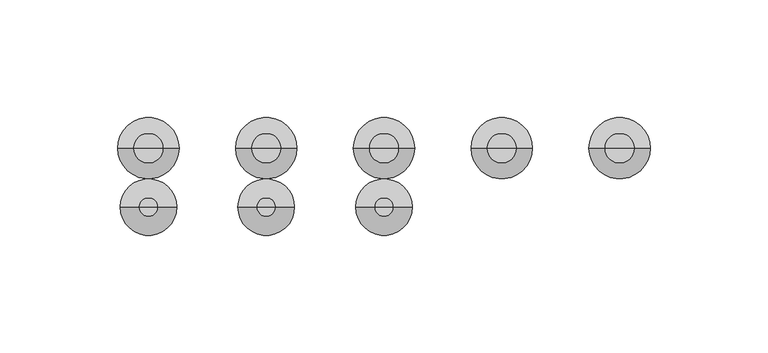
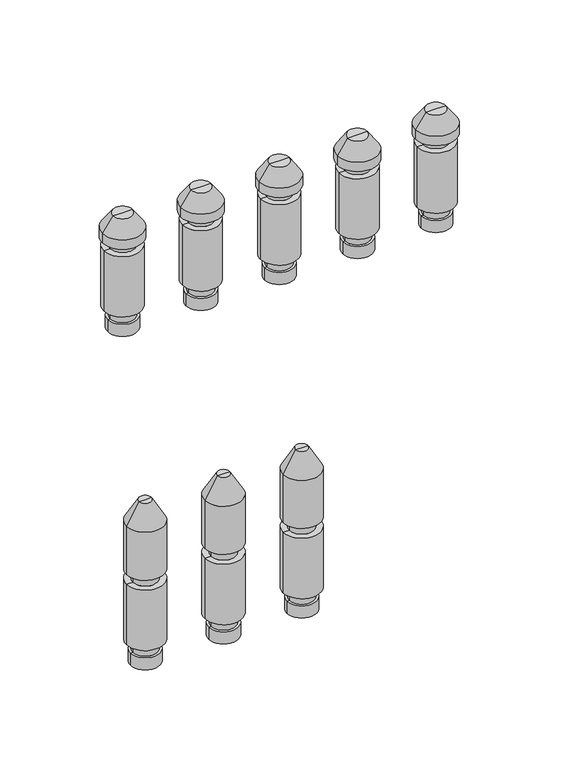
"""IFC4 building model written with IfcOpenShell, lengths in millimetres: valve geometry, PL CZ_Manifold_FT-VA : 15 circuits."""

from ifc_helpers import new_model, si_unit, frame, origin, place, context, project, spatial, polyline, circle_curve, source, transform, mapped, element, save
from ifc_brep_helpers import plane_surface, cylinder_surface, revolved_surface, advanced_brep


def valve_7d993025(model_context):
    return source(origin(), model_context, "Body", "AdvancedBrep", [
        advanced_brep(
        [(528.5, 25.0, 174.88733), (547.5, 25.0, 174.88733), (538.0, 25.0, 174.88733), (528.5, 25.0, 182.9630354), (547.5, 25.0, 182.9630354), (530.0, 25.0, 182.9630354), (546.0, 25.0, 182.9630354), (530.0, 25.0, 189.669747), (546.0, 25.0, 189.669747), (526.0, 25.0, 189.669747), (550.0, 25.0, 189.669747), (526.0, 25.0, 230.330253), (550.0, 25.0, 230.330253), (530.0, 25.0, 230.330253), (546.0, 25.0, 230.330253), (530.0, 25.0, 236.0474786), (546.0, 25.0, 236.0474786), (525.0, 25.0, 236.0474786), (551.0, 25.0, 236.0474786), (525.0, 25.0, 242.337955), (551.0, 25.0, 242.337955), (531.6551779, 25.0, 251.842534), (544.3448221, 25.0, 251.842534), (538.0, 25.0, 251.842534)],
        [
            (0, 1, circle_curve(frame((538.0, 25.0, 174.88733), z_axis=(0.0, 0.0, -1.0), x_axis=(1.0, 0.0, 0.0)), 9.5)),
            (1, 2),
            (2, 0),
            (1, 0, circle_curve(frame((538.0, 25.0, 174.88733), z_axis=(0.0, 0.0, -1.0), x_axis=(1.0, 0.0, 0.0)), 9.5)),
            (3, 4, circle_curve(frame((538.0, 25.0, 182.9630354), z_axis=(0.0, 0.0, -1.0), x_axis=(1.0, 0.0, 0.0)), 9.5)),
            (4, 1),
            (0, 3),
            (4, 3, circle_curve(frame((538.0, 25.0, 182.9630354), z_axis=(0.0, 0.0, -1.0), x_axis=(1.0, 0.0, 0.0)), 9.5)),
            (5, 6, circle_curve(frame((538.0, 25.0, 182.9630354), z_axis=(0.0, 0.0, -1.0), x_axis=(1.0, 0.0, 0.0)), 8.0)),
            (6, 4),
            (3, 5),
            (6, 5, circle_curve(frame((538.0, 25.0, 182.9630354), z_axis=(0.0, 0.0, -1.0), x_axis=(1.0, 0.0, 0.0)), 8.0)),
            (7, 8, circle_curve(frame((538.0, 25.0, 189.669747), z_axis=(0.0, 0.0, -1.0), x_axis=(1.0, 0.0, 0.0)), 8.0)),
            (8, 6),
            (5, 7),
            (8, 7, circle_curve(frame((538.0, 25.0, 189.669747), z_axis=(0.0, 0.0, -1.0), x_axis=(1.0, 0.0, 0.0)), 8.0)),
            (9, 10, circle_curve(frame((538.0, 25.0, 189.669747), z_axis=(0.0, 0.0, -1.0), x_axis=(1.0, 0.0, 0.0)), 12.0)),
            (10, 8),
            (7, 9),
            (10, 9, circle_curve(frame((538.0, 25.0, 189.669747), z_axis=(0.0, 0.0, -1.0), x_axis=(1.0, 0.0, 0.0)), 12.0)),
            (11, 12, circle_curve(frame((538.0, 25.0, 230.330253), z_axis=(0.0, 0.0, -1.0), x_axis=(1.0, 0.0, 0.0)), 12.0)),
            (12, 10),
            (9, 11),
            (12, 11, circle_curve(frame((538.0, 25.0, 230.330253), z_axis=(0.0, 0.0, -1.0), x_axis=(1.0, 0.0, 0.0)), 12.0)),
            (13, 14, circle_curve(frame((538.0, 25.0, 230.330253), z_axis=(0.0, 0.0, -1.0), x_axis=(1.0, 0.0, 0.0)), 8.0)),
            (14, 12),
            (11, 13),
            (14, 13, circle_curve(frame((538.0, 25.0, 230.330253), z_axis=(0.0, 0.0, -1.0), x_axis=(1.0, 0.0, 0.0)), 8.0)),
            (15, 16, circle_curve(frame((538.0, 25.0, 236.0474786), z_axis=(0.0, 0.0, -1.0), x_axis=(1.0, 0.0, 0.0)), 8.0)),
            (16, 14),
            (13, 15),
            (16, 15, circle_curve(frame((538.0, 25.0, 236.0474786), z_axis=(0.0, 0.0, -1.0), x_axis=(1.0, 0.0, 0.0)), 8.0)),
            (17, 18, circle_curve(frame((538.0, 25.0, 236.0474786), z_axis=(0.0, 0.0, -1.0), x_axis=(1.0, 0.0, 0.0)), 13.0)),
            (18, 16),
            (15, 17),
            (18, 17, circle_curve(frame((538.0, 25.0, 236.0474786), z_axis=(0.0, 0.0, -1.0), x_axis=(1.0, 0.0, 0.0)), 13.0)),
            (19, 20, circle_curve(frame((538.0, 25.0, 242.337955), z_axis=(0.0, 0.0, -1.0), x_axis=(1.0, 0.0, 0.0)), 13.0)),
            (20, 18),
            (17, 19),
            (20, 19, circle_curve(frame((538.0, 25.0, 242.337955), z_axis=(0.0, 0.0, -1.0), x_axis=(1.0, 0.0, 0.0)), 13.0)),
            (21, 22, circle_curve(frame((538.0, 25.0, 251.842534), z_axis=(0.0, 0.0, -1.0), x_axis=(1.0, 0.0, 0.0)), 6.3448221)),
            (22, 20),
            (19, 21),
            (22, 21, circle_curve(frame((538.0, 25.0, 251.842534), z_axis=(0.0, 0.0, -1.0), x_axis=(1.0, 0.0, 0.0)), 6.3448221)),
            (23, 22),
            (21, 23),
        ],
        [
            plane_surface(frame((538.0, 25.0, 174.88733), z_axis=(0.0, 0.0, -1.0), x_axis=(1.0, 0.0, 0.0))),
            cylinder_surface(frame((538.0, 25.0, 247.7026565), z_axis=(0.0, 0.0, 1.0), x_axis=(1.0, 0.0, 0.0)), 9.5),
            plane_surface(frame((538.0, 25.0, 182.9630354), z_axis=(0.0, 0.0, 1.0), x_axis=(1.0, 0.0, 0.0))),
            cylinder_surface(frame((538.0, 25.0, 247.7026565), z_axis=(0.0, 0.0, 1.0), x_axis=(1.0, 0.0, 0.0)), 8.0),
            plane_surface(frame((538.0, 25.0, 189.669747), z_axis=(0.0, 0.0, -1.0), x_axis=(1.0, 0.0, 0.0))),
            cylinder_surface(frame((538.0, 25.0, 247.7026565), z_axis=(0.0, 0.0, 1.0), x_axis=(1.0, 0.0, 0.0)), 12.0),
            plane_surface(frame((538.0, 25.0, 230.330253), z_axis=(0.0, 0.0, 1.0), x_axis=(1.0, 0.0, 0.0))),
            plane_surface(frame((538.0, 25.0, 236.0474786), z_axis=(0.0, 0.0, -1.0), x_axis=(1.0, 0.0, 0.0))),
            cylinder_surface(frame((538.0, 25.0, 247.7026565), z_axis=(0.0, 0.0, 1.0), x_axis=(1.0, 0.0, 0.0)), 13.0),
            revolved_surface(polyline([(551.0, 25.0, 242.337955), (544.3448221, 25.0, 251.842534)]), (538.0, 25.0, 247.7026565), (0.0, 0.0, 1.0)),
            plane_surface(frame((538.0, 25.0, 251.842534), z_axis=(0.0, 0.0, 1.0), x_axis=(1.0, 0.0, 0.0))),
        ],
        [
            (0, [[1, 2, 3]]),
            (0, [[4, -3, -2]]),
            (1, [[5, 6, -1, 7]]),
            (1, [[8, -7, -4, -6]]),
            (2, [[9, 10, -5, 11]]),
            (2, [[12, -11, -8, -10]]),
            (3, [[13, 14, -9, 15]]),
            (3, [[16, -15, -12, -14]]),
            (4, [[17, 18, -13, 19]]),
            (4, [[20, -19, -16, -18]]),
            (5, [[21, 22, -17, 23]]),
            (5, [[24, -23, -20, -22]]),
            (6, [[25, 26, -21, 27]]),
            (6, [[28, -27, -24, -26]]),
            (3, [[29, 30, -25, 31]]),
            (3, [[32, -31, -28, -30]]),
            (7, [[33, 34, -29, 35]]),
            (7, [[36, -35, -32, -34]]),
            (8, [[37, 38, -33, 39]]),
            (8, [[40, -39, -36, -38]]),
            (9, [[41, 42, -37, 43]]),
            (9, [[44, -43, -40, -42]]),
            (10, [[45, -41, 46]]),
            (10, [[-46, -44, -45]]),
        ],
    ),
        advanced_brep(
        [(478.5, 25.0, 174.88733), (497.5, 25.0, 174.88733), (488.0, 25.0, 174.88733), (478.5, 25.0, 182.9630354), (497.5, 25.0, 182.9630354), (480.0, 25.0, 182.9630354), (496.0, 25.0, 182.9630354), (480.0, 25.0, 189.669747), (496.0, 25.0, 189.669747), (476.0, 25.0, 189.669747), (500.0, 25.0, 189.669747), (476.0, 25.0, 230.330253), (500.0, 25.0, 230.330253), (480.0, 25.0, 230.330253), (496.0, 25.0, 230.330253), (480.0, 25.0, 236.0474786), (496.0, 25.0, 236.0474786), (475.0, 25.0, 236.0474786), (501.0, 25.0, 236.0474786), (475.0, 25.0, 242.337955), (501.0, 25.0, 242.337955), (481.6551779, 25.0, 251.842534), (494.3448221, 25.0, 251.842534), (488.0, 25.0, 251.842534)],
        [
            (0, 1, circle_curve(frame((488.0, 25.0, 174.88733), z_axis=(0.0, 0.0, -1.0), x_axis=(1.0, 0.0, 0.0)), 9.5)),
            (1, 2),
            (2, 0),
            (1, 0, circle_curve(frame((488.0, 25.0, 174.88733), z_axis=(0.0, 0.0, -1.0), x_axis=(1.0, 0.0, 0.0)), 9.5)),
            (3, 4, circle_curve(frame((488.0, 25.0, 182.9630354), z_axis=(0.0, 0.0, -1.0), x_axis=(1.0, 0.0, 0.0)), 9.5)),
            (4, 1),
            (0, 3),
            (4, 3, circle_curve(frame((488.0, 25.0, 182.9630354), z_axis=(0.0, 0.0, -1.0), x_axis=(1.0, 0.0, 0.0)), 9.5)),
            (5, 6, circle_curve(frame((488.0, 25.0, 182.9630354), z_axis=(0.0, 0.0, -1.0), x_axis=(1.0, 0.0, 0.0)), 8.0)),
            (6, 4),
            (3, 5),
            (6, 5, circle_curve(frame((488.0, 25.0, 182.9630354), z_axis=(0.0, 0.0, -1.0), x_axis=(1.0, 0.0, 0.0)), 8.0)),
            (7, 8, circle_curve(frame((488.0, 25.0, 189.669747), z_axis=(0.0, 0.0, -1.0), x_axis=(1.0, 0.0, 0.0)), 8.0)),
            (8, 6),
            (5, 7),
            (8, 7, circle_curve(frame((488.0, 25.0, 189.669747), z_axis=(0.0, 0.0, -1.0), x_axis=(1.0, 0.0, 0.0)), 8.0)),
            (9, 10, circle_curve(frame((488.0, 25.0, 189.669747), z_axis=(0.0, 0.0, -1.0), x_axis=(1.0, 0.0, 0.0)), 12.0)),
            (10, 8),
            (7, 9),
            (10, 9, circle_curve(frame((488.0, 25.0, 189.669747), z_axis=(0.0, 0.0, -1.0), x_axis=(1.0, 0.0, 0.0)), 12.0)),
            (11, 12, circle_curve(frame((488.0, 25.0, 230.330253), z_axis=(0.0, 0.0, -1.0), x_axis=(1.0, 0.0, 0.0)), 12.0)),
            (12, 10),
            (9, 11),
            (12, 11, circle_curve(frame((488.0, 25.0, 230.330253), z_axis=(0.0, 0.0, -1.0), x_axis=(1.0, 0.0, 0.0)), 12.0)),
            (13, 14, circle_curve(frame((488.0, 25.0, 230.330253), z_axis=(0.0, 0.0, -1.0), x_axis=(1.0, 0.0, 0.0)), 8.0)),
            (14, 12),
            (11, 13),
            (14, 13, circle_curve(frame((488.0, 25.0, 230.330253), z_axis=(0.0, 0.0, -1.0), x_axis=(1.0, 0.0, 0.0)), 8.0)),
            (15, 16, circle_curve(frame((488.0, 25.0, 236.0474786), z_axis=(0.0, 0.0, -1.0), x_axis=(1.0, 0.0, 0.0)), 8.0)),
            (16, 14),
            (13, 15),
            (16, 15, circle_curve(frame((488.0, 25.0, 236.0474786), z_axis=(0.0, 0.0, -1.0), x_axis=(1.0, 0.0, 0.0)), 8.0)),
            (17, 18, circle_curve(frame((488.0, 25.0, 236.0474786), z_axis=(0.0, 0.0, -1.0), x_axis=(1.0, 0.0, 0.0)), 13.0)),
            (18, 16),
            (15, 17),
            (18, 17, circle_curve(frame((488.0, 25.0, 236.0474786), z_axis=(0.0, 0.0, -1.0), x_axis=(1.0, 0.0, 0.0)), 13.0)),
            (19, 20, circle_curve(frame((488.0, 25.0, 242.337955), z_axis=(0.0, 0.0, -1.0), x_axis=(1.0, 0.0, 0.0)), 13.0)),
            (20, 18),
            (17, 19),
            (20, 19, circle_curve(frame((488.0, 25.0, 242.337955), z_axis=(0.0, 0.0, -1.0), x_axis=(1.0, 0.0, 0.0)), 13.0)),
            (21, 22, circle_curve(frame((488.0, 25.0, 251.842534), z_axis=(0.0, 0.0, -1.0), x_axis=(1.0, 0.0, 0.0)), 6.3448221)),
            (22, 20),
            (19, 21),
            (22, 21, circle_curve(frame((488.0, 25.0, 251.842534), z_axis=(0.0, 0.0, -1.0), x_axis=(1.0, 0.0, 0.0)), 6.3448221)),
            (23, 22),
            (21, 23),
        ],
        [
            plane_surface(frame((488.0, 25.0, 174.88733), z_axis=(0.0, 0.0, -1.0), x_axis=(1.0, 0.0, 0.0))),
            cylinder_surface(frame((488.0, 25.0, 247.7026565), z_axis=(0.0, 0.0, 1.0), x_axis=(1.0, 0.0, 0.0)), 9.5),
            plane_surface(frame((488.0, 25.0, 182.9630354), z_axis=(0.0, 0.0, 1.0), x_axis=(1.0, 0.0, 0.0))),
            cylinder_surface(frame((488.0, 25.0, 247.7026565), z_axis=(0.0, 0.0, 1.0), x_axis=(1.0, 0.0, 0.0)), 8.0),
            plane_surface(frame((488.0, 25.0, 189.669747), z_axis=(0.0, 0.0, -1.0), x_axis=(1.0, 0.0, 0.0))),
            cylinder_surface(frame((488.0, 25.0, 247.7026565), z_axis=(0.0, 0.0, 1.0), x_axis=(1.0, 0.0, 0.0)), 12.0),
            plane_surface(frame((488.0, 25.0, 230.330253), z_axis=(0.0, 0.0, 1.0), x_axis=(1.0, 0.0, 0.0))),
            plane_surface(frame((488.0, 25.0, 236.0474786), z_axis=(0.0, 0.0, -1.0), x_axis=(1.0, 0.0, 0.0))),
            cylinder_surface(frame((488.0, 25.0, 247.7026565), z_axis=(0.0, 0.0, 1.0), x_axis=(1.0, 0.0, 0.0)), 13.0),
            revolved_surface(polyline([(501.0, 25.0, 242.337955), (494.3448221, 25.0, 251.842534)]), (488.0, 25.0, 247.7026565), (0.0, 0.0, 1.0)),
            plane_surface(frame((488.0, 25.0, 251.842534), z_axis=(0.0, 0.0, 1.0), x_axis=(1.0, 0.0, 0.0))),
        ],
        [
            (0, [[1, 2, 3]]),
            (0, [[4, -3, -2]]),
            (1, [[5, 6, -1, 7]]),
            (1, [[8, -7, -4, -6]]),
            (2, [[9, 10, -5, 11]]),
            (2, [[12, -11, -8, -10]]),
            (3, [[13, 14, -9, 15]]),
            (3, [[16, -15, -12, -14]]),
            (4, [[17, 18, -13, 19]]),
            (4, [[20, -19, -16, -18]]),
            (5, [[21, 22, -17, 23]]),
            (5, [[24, -23, -20, -22]]),
            (6, [[25, 26, -21, 27]]),
            (6, [[28, -27, -24, -26]]),
            (3, [[29, 30, -25, 31]]),
            (3, [[32, -31, -28, -30]]),
            (7, [[33, 34, -29, 35]]),
            (7, [[36, -35, -32, -34]]),
            (8, [[37, 38, -33, 39]]),
            (8, [[40, -39, -36, -38]]),
            (9, [[41, 42, -37, 43]]),
            (9, [[44, -43, -40, -42]]),
            (10, [[45, -41, 46]]),
            (10, [[-46, -44, -45]]),
        ],
    ),
        advanced_brep(
        [(428.5, 0.0, -35.11267), (447.5, 0.0, -35.11267), (438.0, 0.0, -35.11267), (428.5, 0.0, -27.0369646), (447.5, 0.0, -27.0369646), (430.0, 0.0, -27.0369646), (446.0, 0.0, -27.0369646), (430.0, 0.0, -20.330253), (446.0, 0.0, -20.330253), (426.0, 0.0, -20.330253), (450.0, 0.0, -20.330253), (426.0, 0.0, 20.330253), (450.0, 0.0, 20.330253), (430.0, 0.0, 20.330253), (446.0, 0.0, 20.330253), (430.0, 0.0, 27.0474786), (446.0, 0.0, 27.0474786), (426.0, 0.0, 27.0474786), (450.0, 0.0, 27.0474786), (426.0, 0.0, 59.4084325), (450.0, 0.0, 59.4084325), (434.0, 0.0, 73.264839), (442.0, 0.0, 73.264839), (438.0, 0.0, 73.264839)],
        [
            (0, 1, circle_curve(frame((438.0, 0.0, -35.11267), z_axis=(0.0, 0.0, -1.0), x_axis=(1.0, 0.0, 0.0)), 9.5)),
            (1, 2),
            (2, 0),
            (1, 0, circle_curve(frame((438.0, 0.0, -35.11267), z_axis=(0.0, 0.0, -1.0), x_axis=(1.0, 0.0, 0.0)), 9.5)),
            (3, 4, circle_curve(frame((438.0, 0.0, -27.0369646), z_axis=(0.0, 0.0, -1.0), x_axis=(1.0, 0.0, 0.0)), 9.5)),
            (4, 1),
            (0, 3),
            (4, 3, circle_curve(frame((438.0, 0.0, -27.0369646), z_axis=(0.0, 0.0, -1.0), x_axis=(1.0, 0.0, 0.0)), 9.5)),
            (5, 6, circle_curve(frame((438.0, 0.0, -27.0369646), z_axis=(0.0, 0.0, -1.0), x_axis=(1.0, 0.0, 0.0)), 8.0)),
            (6, 4),
            (3, 5),
            (6, 5, circle_curve(frame((438.0, 0.0, -27.0369646), z_axis=(0.0, 0.0, -1.0), x_axis=(1.0, 0.0, 0.0)), 8.0)),
            (7, 8, circle_curve(frame((438.0, 0.0, -20.330253), z_axis=(0.0, 0.0, -1.0), x_axis=(1.0, 0.0, 0.0)), 8.0)),
            (8, 6),
            (5, 7),
            (8, 7, circle_curve(frame((438.0, 0.0, -20.330253), z_axis=(0.0, 0.0, -1.0), x_axis=(1.0, 0.0, 0.0)), 8.0)),
            (9, 10, circle_curve(frame((438.0, 0.0, -20.330253), z_axis=(0.0, 0.0, -1.0), x_axis=(1.0, 0.0, 0.0)), 12.0)),
            (10, 8),
            (7, 9),
            (10, 9, circle_curve(frame((438.0, 0.0, -20.330253), z_axis=(0.0, 0.0, -1.0), x_axis=(1.0, 0.0, 0.0)), 12.0)),
            (11, 12, circle_curve(frame((438.0, 0.0, 20.330253), z_axis=(0.0, 0.0, -1.0), x_axis=(1.0, 0.0, 0.0)), 12.0)),
            (12, 10),
            (9, 11),
            (12, 11, circle_curve(frame((438.0, 0.0, 20.330253), z_axis=(0.0, 0.0, -1.0), x_axis=(1.0, 0.0, 0.0)), 12.0)),
            (13, 14, circle_curve(frame((438.0, 0.0, 20.330253), z_axis=(0.0, 0.0, -1.0), x_axis=(1.0, 0.0, 0.0)), 8.0)),
            (14, 12),
            (11, 13),
            (14, 13, circle_curve(frame((438.0, 0.0, 20.330253), z_axis=(0.0, 0.0, -1.0), x_axis=(1.0, 0.0, 0.0)), 8.0)),
            (15, 16, circle_curve(frame((438.0, 0.0, 27.0474786), z_axis=(0.0, 0.0, -1.0), x_axis=(1.0, 0.0, 0.0)), 8.0)),
            (16, 14),
            (13, 15),
            (16, 15, circle_curve(frame((438.0, 0.0, 27.0474786), z_axis=(0.0, 0.0, -1.0), x_axis=(1.0, 0.0, 0.0)), 8.0)),
            (17, 18, circle_curve(frame((438.0, 0.0, 27.0474786), z_axis=(0.0, 0.0, -1.0), x_axis=(1.0, 0.0, 0.0)), 12.0)),
            (18, 16),
            (15, 17),
            (18, 17, circle_curve(frame((438.0, 0.0, 27.0474786), z_axis=(0.0, 0.0, -1.0), x_axis=(1.0, 0.0, 0.0)), 12.0)),
            (19, 20, circle_curve(frame((438.0, 0.0, 59.4084325), z_axis=(0.0, 0.0, -1.0), x_axis=(1.0, 0.0, 0.0)), 12.0)),
            (20, 18),
            (17, 19),
            (20, 19, circle_curve(frame((438.0, 0.0, 59.4084325), z_axis=(0.0, 0.0, -1.0), x_axis=(1.0, 0.0, 0.0)), 12.0)),
            (21, 22, circle_curve(frame((438.0, 0.0, 73.264839), z_axis=(0.0, 0.0, -1.0), x_axis=(1.0, 0.0, 0.0)), 4.0)),
            (22, 20),
            (19, 21),
            (22, 21, circle_curve(frame((438.0, 0.0, 73.264839), z_axis=(0.0, 0.0, -1.0), x_axis=(1.0, 0.0, 0.0)), 4.0)),
            (23, 22),
            (21, 23),
        ],
        [
            plane_surface(frame((438.0, 0.0, -35.11267), z_axis=(0.0, 0.0, -1.0), x_axis=(1.0, 0.0, 0.0))),
            cylinder_surface(frame((438.0, 0.0, 58.264839), z_axis=(0.0, 0.0, 1.0), x_axis=(1.0, 0.0, 0.0)), 9.5),
            plane_surface(frame((438.0, 0.0, -27.0369646), z_axis=(0.0, 0.0, 1.0), x_axis=(1.0, 0.0, 0.0))),
            cylinder_surface(frame((438.0, 0.0, 58.264839), z_axis=(0.0, 0.0, 1.0), x_axis=(1.0, 0.0, 0.0)), 8.0),
            plane_surface(frame((438.0, 0.0, -20.330253), z_axis=(0.0, 0.0, -1.0), x_axis=(1.0, 0.0, 0.0))),
            cylinder_surface(frame((438.0, 0.0, 58.264839), z_axis=(0.0, 0.0, 1.0), x_axis=(1.0, 0.0, 0.0)), 12.0),
            plane_surface(frame((438.0, 0.0, 20.330253), z_axis=(0.0, 0.0, 1.0), x_axis=(1.0, 0.0, 0.0))),
            plane_surface(frame((438.0, 0.0, 27.0474786), z_axis=(0.0, 0.0, -1.0), x_axis=(1.0, 0.0, 0.0))),
            revolved_surface(polyline([(450.0, 0.0, 59.4084325), (442.0, 0.0, 73.264839)]), (438.0, 0.0, 58.264839), (0.0, 0.0, 1.0)),
            plane_surface(frame((438.0, 0.0, 73.264839), z_axis=(0.0, 0.0, 1.0), x_axis=(1.0, 0.0, 0.0))),
        ],
        [
            (0, [[1, 2, 3]]),
            (0, [[4, -3, -2]]),
            (1, [[5, 6, -1, 7]]),
            (1, [[8, -7, -4, -6]]),
            (2, [[9, 10, -5, 11]]),
            (2, [[12, -11, -8, -10]]),
            (3, [[13, 14, -9, 15]]),
            (3, [[16, -15, -12, -14]]),
            (4, [[17, 18, -13, 19]]),
            (4, [[20, -19, -16, -18]]),
            (5, [[21, 22, -17, 23]]),
            (5, [[24, -23, -20, -22]]),
            (6, [[25, 26, -21, 27]]),
            (6, [[28, -27, -24, -26]]),
            (3, [[29, 30, -25, 31]]),
            (3, [[32, -31, -28, -30]]),
            (7, [[33, 34, -29, 35]]),
            (7, [[36, -35, -32, -34]]),
            (5, [[37, 38, -33, 39]]),
            (5, [[40, -39, -36, -38]]),
            (8, [[41, 42, -37, 43]]),
            (8, [[44, -43, -40, -42]]),
            (9, [[45, -41, 46]]),
            (9, [[-46, -44, -45]]),
        ],
    ),
        advanced_brep(
        [(378.5, 0.0, -35.11267), (397.5, 0.0, -35.11267), (388.0, 0.0, -35.11267), (378.5, 0.0, -27.0369646), (397.5, 0.0, -27.0369646), (380.0, 0.0, -27.0369646), (396.0, 0.0, -27.0369646), (380.0, 0.0, -20.330253), (396.0, 0.0, -20.330253), (376.0, 0.0, -20.330253), (400.0, 0.0, -20.330253), (376.0, 0.0, 20.330253), (400.0, 0.0, 20.330253), (380.0, 0.0, 20.330253), (396.0, 0.0, 20.330253), (380.0, 0.0, 27.0474786), (396.0, 0.0, 27.0474786), (376.0, 0.0, 27.0474786), (400.0, 0.0, 27.0474786), (376.0, 0.0, 59.4084325), (400.0, 0.0, 59.4084325), (384.0, 0.0, 73.264839), (392.0, 0.0, 73.264839), (388.0, 0.0, 73.264839)],
        [
            (0, 1, circle_curve(frame((388.0, 0.0, -35.11267), z_axis=(0.0, 0.0, -1.0), x_axis=(1.0, 0.0, 0.0)), 9.5)),
            (1, 2),
            (2, 0),
            (1, 0, circle_curve(frame((388.0, 0.0, -35.11267), z_axis=(0.0, 0.0, -1.0), x_axis=(1.0, 0.0, 0.0)), 9.5)),
            (3, 4, circle_curve(frame((388.0, 0.0, -27.0369646), z_axis=(0.0, 0.0, -1.0), x_axis=(1.0, 0.0, 0.0)), 9.5)),
            (4, 1),
            (0, 3),
            (4, 3, circle_curve(frame((388.0, 0.0, -27.0369646), z_axis=(0.0, 0.0, -1.0), x_axis=(1.0, 0.0, 0.0)), 9.5)),
            (5, 6, circle_curve(frame((388.0, 0.0, -27.0369646), z_axis=(0.0, 0.0, -1.0), x_axis=(1.0, 0.0, 0.0)), 8.0)),
            (6, 4),
            (3, 5),
            (6, 5, circle_curve(frame((388.0, 0.0, -27.0369646), z_axis=(0.0, 0.0, -1.0), x_axis=(1.0, 0.0, 0.0)), 8.0)),
            (7, 8, circle_curve(frame((388.0, 0.0, -20.330253), z_axis=(0.0, 0.0, -1.0), x_axis=(1.0, 0.0, 0.0)), 8.0)),
            (8, 6),
            (5, 7),
            (8, 7, circle_curve(frame((388.0, 0.0, -20.330253), z_axis=(0.0, 0.0, -1.0), x_axis=(1.0, 0.0, 0.0)), 8.0)),
            (9, 10, circle_curve(frame((388.0, 0.0, -20.330253), z_axis=(0.0, 0.0, -1.0), x_axis=(1.0, 0.0, 0.0)), 12.0)),
            (10, 8),
            (7, 9),
            (10, 9, circle_curve(frame((388.0, 0.0, -20.330253), z_axis=(0.0, 0.0, -1.0), x_axis=(1.0, 0.0, 0.0)), 12.0)),
            (11, 12, circle_curve(frame((388.0, 0.0, 20.330253), z_axis=(0.0, 0.0, -1.0), x_axis=(1.0, 0.0, 0.0)), 12.0)),
            (12, 10),
            (9, 11),
            (12, 11, circle_curve(frame((388.0, 0.0, 20.330253), z_axis=(0.0, 0.0, -1.0), x_axis=(1.0, 0.0, 0.0)), 12.0)),
            (13, 14, circle_curve(frame((388.0, 0.0, 20.330253), z_axis=(0.0, 0.0, -1.0), x_axis=(1.0, 0.0, 0.0)), 8.0)),
            (14, 12),
            (11, 13),
            (14, 13, circle_curve(frame((388.0, 0.0, 20.330253), z_axis=(0.0, 0.0, -1.0), x_axis=(1.0, 0.0, 0.0)), 8.0)),
            (15, 16, circle_curve(frame((388.0, 0.0, 27.0474786), z_axis=(0.0, 0.0, -1.0), x_axis=(1.0, 0.0, 0.0)), 8.0)),
            (16, 14),
            (13, 15),
            (16, 15, circle_curve(frame((388.0, 0.0, 27.0474786), z_axis=(0.0, 0.0, -1.0), x_axis=(1.0, 0.0, 0.0)), 8.0)),
            (17, 18, circle_curve(frame((388.0, 0.0, 27.0474786), z_axis=(0.0, 0.0, -1.0), x_axis=(1.0, 0.0, 0.0)), 12.0)),
            (18, 16),
            (15, 17),
            (18, 17, circle_curve(frame((388.0, 0.0, 27.0474786), z_axis=(0.0, 0.0, -1.0), x_axis=(1.0, 0.0, 0.0)), 12.0)),
            (19, 20, circle_curve(frame((388.0, 0.0, 59.4084325), z_axis=(0.0, 0.0, -1.0), x_axis=(1.0, 0.0, 0.0)), 12.0)),
            (20, 18),
            (17, 19),
            (20, 19, circle_curve(frame((388.0, 0.0, 59.4084325), z_axis=(0.0, 0.0, -1.0), x_axis=(1.0, 0.0, 0.0)), 12.0)),
            (21, 22, circle_curve(frame((388.0, 0.0, 73.264839), z_axis=(0.0, 0.0, -1.0), x_axis=(1.0, 0.0, 0.0)), 4.0)),
            (22, 20),
            (19, 21),
            (22, 21, circle_curve(frame((388.0, 0.0, 73.264839), z_axis=(0.0, 0.0, -1.0), x_axis=(1.0, 0.0, 0.0)), 4.0)),
            (23, 22),
            (21, 23),
        ],
        [
            plane_surface(frame((388.0, 0.0, -35.11267), z_axis=(0.0, 0.0, -1.0), x_axis=(1.0, 0.0, 0.0))),
            cylinder_surface(frame((388.0, 0.0, 58.264839), z_axis=(0.0, 0.0, 1.0), x_axis=(1.0, 0.0, 0.0)), 9.5),
            plane_surface(frame((388.0, 0.0, -27.0369646), z_axis=(0.0, 0.0, 1.0), x_axis=(1.0, 0.0, 0.0))),
            cylinder_surface(frame((388.0, 0.0, 58.264839), z_axis=(0.0, 0.0, 1.0), x_axis=(1.0, 0.0, 0.0)), 8.0),
            plane_surface(frame((388.0, 0.0, -20.330253), z_axis=(0.0, 0.0, -1.0), x_axis=(1.0, 0.0, 0.0))),
            cylinder_surface(frame((388.0, 0.0, 58.264839), z_axis=(0.0, 0.0, 1.0), x_axis=(1.0, 0.0, 0.0)), 12.0),
            plane_surface(frame((388.0, 0.0, 20.330253), z_axis=(0.0, 0.0, 1.0), x_axis=(1.0, 0.0, 0.0))),
            plane_surface(frame((388.0, 0.0, 27.0474786), z_axis=(0.0, 0.0, -1.0), x_axis=(1.0, 0.0, 0.0))),
            revolved_surface(polyline([(400.0, 0.0, 59.4084325), (392.0, 0.0, 73.264839)]), (388.0, 0.0, 58.264839), (0.0, 0.0, 1.0)),
            plane_surface(frame((388.0, 0.0, 73.264839), z_axis=(0.0, 0.0, 1.0), x_axis=(1.0, 0.0, 0.0))),
        ],
        [
            (0, [[1, 2, 3]]),
            (0, [[4, -3, -2]]),
            (1, [[5, 6, -1, 7]]),
            (1, [[8, -7, -4, -6]]),
            (2, [[9, 10, -5, 11]]),
            (2, [[12, -11, -8, -10]]),
            (3, [[13, 14, -9, 15]]),
            (3, [[16, -15, -12, -14]]),
            (4, [[17, 18, -13, 19]]),
            (4, [[20, -19, -16, -18]]),
            (5, [[21, 22, -17, 23]]),
            (5, [[24, -23, -20, -22]]),
            (6, [[25, 26, -21, 27]]),
            (6, [[28, -27, -24, -26]]),
            (3, [[29, 30, -25, 31]]),
            (3, [[32, -31, -28, -30]]),
            (7, [[33, 34, -29, 35]]),
            (7, [[36, -35, -32, -34]]),
            (5, [[37, 38, -33, 39]]),
            (5, [[40, -39, -36, -38]]),
            (8, [[41, 42, -37, 43]]),
            (8, [[44, -43, -40, -42]]),
            (9, [[45, -41, 46]]),
            (9, [[-46, -44, -45]]),
        ],
    ),
        advanced_brep(
        [(428.5, 25.0, 174.88733), (447.5, 25.0, 174.88733), (438.0, 25.0, 174.88733), (428.5, 25.0, 182.9630354), (447.5, 25.0, 182.9630354), (430.0, 25.0, 182.9630354), (446.0, 25.0, 182.9630354), (430.0, 25.0, 189.669747), (446.0, 25.0, 189.669747), (426.0, 25.0, 189.669747), (450.0, 25.0, 189.669747), (426.0, 25.0, 230.330253), (450.0, 25.0, 230.330253), (430.0, 25.0, 230.330253), (446.0, 25.0, 230.330253), (430.0, 25.0, 236.0474786), (446.0, 25.0, 236.0474786), (425.0, 25.0, 236.0474786), (451.0, 25.0, 236.0474786), (425.0, 25.0, 242.337955), (451.0, 25.0, 242.337955), (431.6551779, 25.0, 251.842534), (444.3448221, 25.0, 251.842534), (438.0, 25.0, 251.842534)],
        [
            (0, 1, circle_curve(frame((438.0, 25.0, 174.88733), z_axis=(0.0, 0.0, -1.0), x_axis=(1.0, 0.0, 0.0)), 9.5)),
            (1, 2),
            (2, 0),
            (1, 0, circle_curve(frame((438.0, 25.0, 174.88733), z_axis=(0.0, 0.0, -1.0), x_axis=(1.0, 0.0, 0.0)), 9.5)),
            (3, 4, circle_curve(frame((438.0, 25.0, 182.9630354), z_axis=(0.0, 0.0, -1.0), x_axis=(1.0, 0.0, 0.0)), 9.5)),
            (4, 1),
            (0, 3),
            (4, 3, circle_curve(frame((438.0, 25.0, 182.9630354), z_axis=(0.0, 0.0, -1.0), x_axis=(1.0, 0.0, 0.0)), 9.5)),
            (5, 6, circle_curve(frame((438.0, 25.0, 182.9630354), z_axis=(0.0, 0.0, -1.0), x_axis=(1.0, 0.0, 0.0)), 8.0)),
            (6, 4),
            (3, 5),
            (6, 5, circle_curve(frame((438.0, 25.0, 182.9630354), z_axis=(0.0, 0.0, -1.0), x_axis=(1.0, 0.0, 0.0)), 8.0)),
            (7, 8, circle_curve(frame((438.0, 25.0, 189.669747), z_axis=(0.0, 0.0, -1.0), x_axis=(1.0, 0.0, 0.0)), 8.0)),
            (8, 6),
            (5, 7),
            (8, 7, circle_curve(frame((438.0, 25.0, 189.669747), z_axis=(0.0, 0.0, -1.0), x_axis=(1.0, 0.0, 0.0)), 8.0)),
            (9, 10, circle_curve(frame((438.0, 25.0, 189.669747), z_axis=(0.0, 0.0, -1.0), x_axis=(1.0, 0.0, 0.0)), 12.0)),
            (10, 8),
            (7, 9),
            (10, 9, circle_curve(frame((438.0, 25.0, 189.669747), z_axis=(0.0, 0.0, -1.0), x_axis=(1.0, 0.0, 0.0)), 12.0)),
            (11, 12, circle_curve(frame((438.0, 25.0, 230.330253), z_axis=(0.0, 0.0, -1.0), x_axis=(1.0, 0.0, 0.0)), 12.0)),
            (12, 10),
            (9, 11),
            (12, 11, circle_curve(frame((438.0, 25.0, 230.330253), z_axis=(0.0, 0.0, -1.0), x_axis=(1.0, 0.0, 0.0)), 12.0)),
            (13, 14, circle_curve(frame((438.0, 25.0, 230.330253), z_axis=(0.0, 0.0, -1.0), x_axis=(1.0, 0.0, 0.0)), 8.0)),
            (14, 12),
            (11, 13),
            (14, 13, circle_curve(frame((438.0, 25.0, 230.330253), z_axis=(0.0, 0.0, -1.0), x_axis=(1.0, 0.0, 0.0)), 8.0)),
            (15, 16, circle_curve(frame((438.0, 25.0, 236.0474786), z_axis=(0.0, 0.0, -1.0), x_axis=(1.0, 0.0, 0.0)), 8.0)),
            (16, 14),
            (13, 15),
            (16, 15, circle_curve(frame((438.0, 25.0, 236.0474786), z_axis=(0.0, 0.0, -1.0), x_axis=(1.0, 0.0, 0.0)), 8.0)),
            (17, 18, circle_curve(frame((438.0, 25.0, 236.0474786), z_axis=(0.0, 0.0, -1.0), x_axis=(1.0, 0.0, 0.0)), 13.0)),
            (18, 16),
            (15, 17),
            (18, 17, circle_curve(frame((438.0, 25.0, 236.0474786), z_axis=(0.0, 0.0, -1.0), x_axis=(1.0, 0.0, 0.0)), 13.0)),
            (19, 20, circle_curve(frame((438.0, 25.0, 242.337955), z_axis=(0.0, 0.0, -1.0), x_axis=(1.0, 0.0, 0.0)), 13.0)),
            (20, 18),
            (17, 19),
            (20, 19, circle_curve(frame((438.0, 25.0, 242.337955), z_axis=(0.0, 0.0, -1.0), x_axis=(1.0, 0.0, 0.0)), 13.0)),
            (21, 22, circle_curve(frame((438.0, 25.0, 251.842534), z_axis=(0.0, 0.0, -1.0), x_axis=(1.0, 0.0, 0.0)), 6.3448221)),
            (22, 20),
            (19, 21),
            (22, 21, circle_curve(frame((438.0, 25.0, 251.842534), z_axis=(0.0, 0.0, -1.0), x_axis=(1.0, 0.0, 0.0)), 6.3448221)),
            (23, 22),
            (21, 23),
        ],
        [
            plane_surface(frame((438.0, 25.0, 174.88733), z_axis=(0.0, 0.0, -1.0), x_axis=(1.0, 0.0, 0.0))),
            cylinder_surface(frame((438.0, 25.0, 247.7026565), z_axis=(0.0, 0.0, 1.0), x_axis=(1.0, 0.0, 0.0)), 9.5),
            plane_surface(frame((438.0, 25.0, 182.9630354), z_axis=(0.0, 0.0, 1.0), x_axis=(1.0, 0.0, 0.0))),
            cylinder_surface(frame((438.0, 25.0, 247.7026565), z_axis=(0.0, 0.0, 1.0), x_axis=(1.0, 0.0, 0.0)), 8.0),
            plane_surface(frame((438.0, 25.0, 189.669747), z_axis=(0.0, 0.0, -1.0), x_axis=(1.0, 0.0, 0.0))),
            cylinder_surface(frame((438.0, 25.0, 247.7026565), z_axis=(0.0, 0.0, 1.0), x_axis=(1.0, 0.0, 0.0)), 12.0),
            plane_surface(frame((438.0, 25.0, 230.330253), z_axis=(0.0, 0.0, 1.0), x_axis=(1.0, 0.0, 0.0))),
            plane_surface(frame((438.0, 25.0, 236.0474786), z_axis=(0.0, 0.0, -1.0), x_axis=(1.0, 0.0, 0.0))),
            cylinder_surface(frame((438.0, 25.0, 247.7026565), z_axis=(0.0, 0.0, 1.0), x_axis=(1.0, 0.0, 0.0)), 13.0),
            revolved_surface(polyline([(451.0, 25.0, 242.337955), (444.3448221, 25.0, 251.842534)]), (438.0, 25.0, 247.7026565), (0.0, 0.0, 1.0)),
            plane_surface(frame((438.0, 25.0, 251.842534), z_axis=(0.0, 0.0, 1.0), x_axis=(1.0, 0.0, 0.0))),
        ],
        [
            (0, [[1, 2, 3]]),
            (0, [[4, -3, -2]]),
            (1, [[5, 6, -1, 7]]),
            (1, [[8, -7, -4, -6]]),
            (2, [[9, 10, -5, 11]]),
            (2, [[12, -11, -8, -10]]),
            (3, [[13, 14, -9, 15]]),
            (3, [[16, -15, -12, -14]]),
            (4, [[17, 18, -13, 19]]),
            (4, [[20, -19, -16, -18]]),
            (5, [[21, 22, -17, 23]]),
            (5, [[24, -23, -20, -22]]),
            (6, [[25, 26, -21, 27]]),
            (6, [[28, -27, -24, -26]]),
            (3, [[29, 30, -25, 31]]),
            (3, [[32, -31, -28, -30]]),
            (7, [[33, 34, -29, 35]]),
            (7, [[36, -35, -32, -34]]),
            (8, [[37, 38, -33, 39]]),
            (8, [[40, -39, -36, -38]]),
            (9, [[41, 42, -37, 43]]),
            (9, [[44, -43, -40, -42]]),
            (10, [[45, -41, 46]]),
            (10, [[-46, -44, -45]]),
        ],
    ),
        advanced_brep(
        [(378.5, 25.0, 174.88733), (397.5, 25.0, 174.88733), (388.0, 25.0, 174.88733), (378.5, 25.0, 182.9630354), (397.5, 25.0, 182.9630354), (380.0, 25.0, 182.9630354), (396.0, 25.0, 182.9630354), (380.0, 25.0, 189.669747), (396.0, 25.0, 189.669747), (376.0, 25.0, 189.669747), (400.0, 25.0, 189.669747), (376.0, 25.0, 230.330253), (400.0, 25.0, 230.330253), (380.0, 25.0, 230.330253), (396.0, 25.0, 230.330253), (380.0, 25.0, 236.0474786), (396.0, 25.0, 236.0474786), (375.0, 25.0, 236.0474786), (401.0, 25.0, 236.0474786), (375.0, 25.0, 242.337955), (401.0, 25.0, 242.337955), (381.6551779, 25.0, 251.842534), (394.3448221, 25.0, 251.842534), (388.0, 25.0, 251.842534)],
        [
            (0, 1, circle_curve(frame((388.0, 25.0, 174.88733), z_axis=(0.0, 0.0, -1.0), x_axis=(1.0, 0.0, 0.0)), 9.5)),
            (1, 2),
            (2, 0),
            (1, 0, circle_curve(frame((388.0, 25.0, 174.88733), z_axis=(0.0, 0.0, -1.0), x_axis=(1.0, 0.0, 0.0)), 9.5)),
            (3, 4, circle_curve(frame((388.0, 25.0, 182.9630354), z_axis=(0.0, 0.0, -1.0), x_axis=(1.0, 0.0, 0.0)), 9.5)),
            (4, 1),
            (0, 3),
            (4, 3, circle_curve(frame((388.0, 25.0, 182.9630354), z_axis=(0.0, 0.0, -1.0), x_axis=(1.0, 0.0, 0.0)), 9.5)),
            (5, 6, circle_curve(frame((388.0, 25.0, 182.9630354), z_axis=(0.0, 0.0, -1.0), x_axis=(1.0, 0.0, 0.0)), 8.0)),
            (6, 4),
            (3, 5),
            (6, 5, circle_curve(frame((388.0, 25.0, 182.9630354), z_axis=(0.0, 0.0, -1.0), x_axis=(1.0, 0.0, 0.0)), 8.0)),
            (7, 8, circle_curve(frame((388.0, 25.0, 189.669747), z_axis=(0.0, 0.0, -1.0), x_axis=(1.0, 0.0, 0.0)), 8.0)),
            (8, 6),
            (5, 7),
            (8, 7, circle_curve(frame((388.0, 25.0, 189.669747), z_axis=(0.0, 0.0, -1.0), x_axis=(1.0, 0.0, 0.0)), 8.0)),
            (9, 10, circle_curve(frame((388.0, 25.0, 189.669747), z_axis=(0.0, 0.0, -1.0), x_axis=(1.0, 0.0, 0.0)), 12.0)),
            (10, 8),
            (7, 9),
            (10, 9, circle_curve(frame((388.0, 25.0, 189.669747), z_axis=(0.0, 0.0, -1.0), x_axis=(1.0, 0.0, 0.0)), 12.0)),
            (11, 12, circle_curve(frame((388.0, 25.0, 230.330253), z_axis=(0.0, 0.0, -1.0), x_axis=(1.0, 0.0, 0.0)), 12.0)),
            (12, 10),
            (9, 11),
            (12, 11, circle_curve(frame((388.0, 25.0, 230.330253), z_axis=(0.0, 0.0, -1.0), x_axis=(1.0, 0.0, 0.0)), 12.0)),
            (13, 14, circle_curve(frame((388.0, 25.0, 230.330253), z_axis=(0.0, 0.0, -1.0), x_axis=(1.0, 0.0, 0.0)), 8.0)),
            (14, 12),
            (11, 13),
            (14, 13, circle_curve(frame((388.0, 25.0, 230.330253), z_axis=(0.0, 0.0, -1.0), x_axis=(1.0, 0.0, 0.0)), 8.0)),
            (15, 16, circle_curve(frame((388.0, 25.0, 236.0474786), z_axis=(0.0, 0.0, -1.0), x_axis=(1.0, 0.0, 0.0)), 8.0)),
            (16, 14),
            (13, 15),
            (16, 15, circle_curve(frame((388.0, 25.0, 236.0474786), z_axis=(0.0, 0.0, -1.0), x_axis=(1.0, 0.0, 0.0)), 8.0)),
            (17, 18, circle_curve(frame((388.0, 25.0, 236.0474786), z_axis=(0.0, 0.0, -1.0), x_axis=(1.0, 0.0, 0.0)), 13.0)),
            (18, 16),
            (15, 17),
            (18, 17, circle_curve(frame((388.0, 25.0, 236.0474786), z_axis=(0.0, 0.0, -1.0), x_axis=(1.0, 0.0, 0.0)), 13.0)),
            (19, 20, circle_curve(frame((388.0, 25.0, 242.337955), z_axis=(0.0, 0.0, -1.0), x_axis=(1.0, 0.0, 0.0)), 13.0)),
            (20, 18),
            (17, 19),
            (20, 19, circle_curve(frame((388.0, 25.0, 242.337955), z_axis=(0.0, 0.0, -1.0), x_axis=(1.0, 0.0, 0.0)), 13.0)),
            (21, 22, circle_curve(frame((388.0, 25.0, 251.842534), z_axis=(0.0, 0.0, -1.0), x_axis=(1.0, 0.0, 0.0)), 6.3448221)),
            (22, 20),
            (19, 21),
            (22, 21, circle_curve(frame((388.0, 25.0, 251.842534), z_axis=(0.0, 0.0, -1.0), x_axis=(1.0, 0.0, 0.0)), 6.3448221)),
            (23, 22),
            (21, 23),
        ],
        [
            plane_surface(frame((388.0, 25.0, 174.88733), z_axis=(0.0, 0.0, -1.0), x_axis=(1.0, 0.0, 0.0))),
            cylinder_surface(frame((388.0, 25.0, 247.7026565), z_axis=(0.0, 0.0, 1.0), x_axis=(1.0, 0.0, 0.0)), 9.5),
            plane_surface(frame((388.0, 25.0, 182.9630354), z_axis=(0.0, 0.0, 1.0), x_axis=(1.0, 0.0, 0.0))),
            cylinder_surface(frame((388.0, 25.0, 247.7026565), z_axis=(0.0, 0.0, 1.0), x_axis=(1.0, 0.0, 0.0)), 8.0),
            plane_surface(frame((388.0, 25.0, 189.669747), z_axis=(0.0, 0.0, -1.0), x_axis=(1.0, 0.0, 0.0))),
            cylinder_surface(frame((388.0, 25.0, 247.7026565), z_axis=(0.0, 0.0, 1.0), x_axis=(1.0, 0.0, 0.0)), 12.0),
            plane_surface(frame((388.0, 25.0, 230.330253), z_axis=(0.0, 0.0, 1.0), x_axis=(1.0, 0.0, 0.0))),
            plane_surface(frame((388.0, 25.0, 236.0474786), z_axis=(0.0, 0.0, -1.0), x_axis=(1.0, 0.0, 0.0))),
            cylinder_surface(frame((388.0, 25.0, 247.7026565), z_axis=(0.0, 0.0, 1.0), x_axis=(1.0, 0.0, 0.0)), 13.0),
            revolved_surface(polyline([(401.0, 25.0, 242.337955), (394.3448221, 25.0, 251.842534)]), (388.0, 25.0, 247.7026565), (0.0, 0.0, 1.0)),
            plane_surface(frame((388.0, 25.0, 251.842534), z_axis=(0.0, 0.0, 1.0), x_axis=(1.0, 0.0, 0.0))),
        ],
        [
            (0, [[1, 2, 3]]),
            (0, [[4, -3, -2]]),
            (1, [[5, 6, -1, 7]]),
            (1, [[8, -7, -4, -6]]),
            (2, [[9, 10, -5, 11]]),
            (2, [[12, -11, -8, -10]]),
            (3, [[13, 14, -9, 15]]),
            (3, [[16, -15, -12, -14]]),
            (4, [[17, 18, -13, 19]]),
            (4, [[20, -19, -16, -18]]),
            (5, [[21, 22, -17, 23]]),
            (5, [[24, -23, -20, -22]]),
            (6, [[25, 26, -21, 27]]),
            (6, [[28, -27, -24, -26]]),
            (3, [[29, 30, -25, 31]]),
            (3, [[32, -31, -28, -30]]),
            (7, [[33, 34, -29, 35]]),
            (7, [[36, -35, -32, -34]]),
            (8, [[37, 38, -33, 39]]),
            (8, [[40, -39, -36, -38]]),
            (9, [[41, 42, -37, 43]]),
            (9, [[44, -43, -40, -42]]),
            (10, [[45, -41, 46]]),
            (10, [[-46, -44, -45]]),
        ],
    ),
        advanced_brep(
        [(328.5, 0.0, -35.11267), (347.5, 0.0, -35.11267), (338.0, 0.0, -35.11267), (328.5, 0.0, -27.0369646), (347.5, 0.0, -27.0369646), (330.0, 0.0, -27.0369646), (346.0, 0.0, -27.0369646), (330.0, 0.0, -20.330253), (346.0, 0.0, -20.330253), (326.0, 0.0, -20.330253), (350.0, 0.0, -20.330253), (326.0, 0.0, 20.330253), (350.0, 0.0, 20.330253), (330.0, 0.0, 20.330253), (346.0, 0.0, 20.330253), (330.0, 0.0, 27.0474786), (346.0, 0.0, 27.0474786), (326.0, 0.0, 27.0474786), (350.0, 0.0, 27.0474786), (326.0, 0.0, 59.4084325), (350.0, 0.0, 59.4084325), (334.0, 0.0, 73.264839), (342.0, 0.0, 73.264839), (338.0, 0.0, 73.264839)],
        [
            (0, 1, circle_curve(frame((338.0, 0.0, -35.11267), z_axis=(0.0, 0.0, -1.0), x_axis=(1.0, 0.0, 0.0)), 9.5)),
            (1, 2),
            (2, 0),
            (1, 0, circle_curve(frame((338.0, 0.0, -35.11267), z_axis=(0.0, 0.0, -1.0), x_axis=(1.0, 0.0, 0.0)), 9.5)),
            (3, 4, circle_curve(frame((338.0, 0.0, -27.0369646), z_axis=(0.0, 0.0, -1.0), x_axis=(1.0, 0.0, 0.0)), 9.5)),
            (4, 1),
            (0, 3),
            (4, 3, circle_curve(frame((338.0, 0.0, -27.0369646), z_axis=(0.0, 0.0, -1.0), x_axis=(1.0, 0.0, 0.0)), 9.5)),
            (5, 6, circle_curve(frame((338.0, 0.0, -27.0369646), z_axis=(0.0, 0.0, -1.0), x_axis=(1.0, 0.0, 0.0)), 8.0)),
            (6, 4),
            (3, 5),
            (6, 5, circle_curve(frame((338.0, 0.0, -27.0369646), z_axis=(0.0, 0.0, -1.0), x_axis=(1.0, 0.0, 0.0)), 8.0)),
            (7, 8, circle_curve(frame((338.0, 0.0, -20.330253), z_axis=(0.0, 0.0, -1.0), x_axis=(1.0, 0.0, 0.0)), 8.0)),
            (8, 6),
            (5, 7),
            (8, 7, circle_curve(frame((338.0, 0.0, -20.330253), z_axis=(0.0, 0.0, -1.0), x_axis=(1.0, 0.0, 0.0)), 8.0)),
            (9, 10, circle_curve(frame((338.0, 0.0, -20.330253), z_axis=(0.0, 0.0, -1.0), x_axis=(1.0, 0.0, 0.0)), 12.0)),
            (10, 8),
            (7, 9),
            (10, 9, circle_curve(frame((338.0, 0.0, -20.330253), z_axis=(0.0, 0.0, -1.0), x_axis=(1.0, 0.0, 0.0)), 12.0)),
            (11, 12, circle_curve(frame((338.0, 0.0, 20.330253), z_axis=(0.0, 0.0, -1.0), x_axis=(1.0, 0.0, 0.0)), 12.0)),
            (12, 10),
            (9, 11),
            (12, 11, circle_curve(frame((338.0, 0.0, 20.330253), z_axis=(0.0, 0.0, -1.0), x_axis=(1.0, 0.0, 0.0)), 12.0)),
            (13, 14, circle_curve(frame((338.0, 0.0, 20.330253), z_axis=(0.0, 0.0, -1.0), x_axis=(1.0, 0.0, 0.0)), 8.0)),
            (14, 12),
            (11, 13),
            (14, 13, circle_curve(frame((338.0, 0.0, 20.330253), z_axis=(0.0, 0.0, -1.0), x_axis=(1.0, 0.0, 0.0)), 8.0)),
            (15, 16, circle_curve(frame((338.0, 0.0, 27.0474786), z_axis=(0.0, 0.0, -1.0), x_axis=(1.0, 0.0, 0.0)), 8.0)),
            (16, 14),
            (13, 15),
            (16, 15, circle_curve(frame((338.0, 0.0, 27.0474786), z_axis=(0.0, 0.0, -1.0), x_axis=(1.0, 0.0, 0.0)), 8.0)),
            (17, 18, circle_curve(frame((338.0, 0.0, 27.0474786), z_axis=(0.0, 0.0, -1.0), x_axis=(1.0, 0.0, 0.0)), 12.0)),
            (18, 16),
            (15, 17),
            (18, 17, circle_curve(frame((338.0, 0.0, 27.0474786), z_axis=(0.0, 0.0, -1.0), x_axis=(1.0, 0.0, 0.0)), 12.0)),
            (19, 20, circle_curve(frame((338.0, 0.0, 59.4084325), z_axis=(0.0, 0.0, -1.0), x_axis=(1.0, 0.0, 0.0)), 12.0)),
            (20, 18),
            (17, 19),
            (20, 19, circle_curve(frame((338.0, 0.0, 59.4084325), z_axis=(0.0, 0.0, -1.0), x_axis=(1.0, 0.0, 0.0)), 12.0)),
            (21, 22, circle_curve(frame((338.0, 0.0, 73.264839), z_axis=(0.0, 0.0, -1.0), x_axis=(1.0, 0.0, 0.0)), 4.0)),
            (22, 20),
            (19, 21),
            (22, 21, circle_curve(frame((338.0, 0.0, 73.264839), z_axis=(0.0, 0.0, -1.0), x_axis=(1.0, 0.0, 0.0)), 4.0)),
            (23, 22),
            (21, 23),
        ],
        [
            plane_surface(frame((338.0, 0.0, -35.11267), z_axis=(0.0, 0.0, -1.0), x_axis=(1.0, 0.0, 0.0))),
            cylinder_surface(frame((338.0, 0.0, 58.264839), z_axis=(0.0, 0.0, 1.0), x_axis=(1.0, 0.0, 0.0)), 9.5),
            plane_surface(frame((338.0, 0.0, -27.0369646), z_axis=(0.0, 0.0, 1.0), x_axis=(1.0, 0.0, 0.0))),
            cylinder_surface(frame((338.0, 0.0, 58.264839), z_axis=(0.0, 0.0, 1.0), x_axis=(1.0, 0.0, 0.0)), 8.0),
            plane_surface(frame((338.0, 0.0, -20.330253), z_axis=(0.0, 0.0, -1.0), x_axis=(1.0, 0.0, 0.0))),
            cylinder_surface(frame((338.0, 0.0, 58.264839), z_axis=(0.0, 0.0, 1.0), x_axis=(1.0, 0.0, 0.0)), 12.0),
            plane_surface(frame((338.0, 0.0, 20.330253), z_axis=(0.0, 0.0, 1.0), x_axis=(1.0, 0.0, 0.0))),
            plane_surface(frame((338.0, 0.0, 27.0474786), z_axis=(0.0, 0.0, -1.0), x_axis=(1.0, 0.0, 0.0))),
            revolved_surface(polyline([(350.0, 0.0, 59.4084325), (342.0, 0.0, 73.264839)]), (338.0, 0.0, 58.264839), (0.0, 0.0, 1.0)),
            plane_surface(frame((338.0, 0.0, 73.264839), z_axis=(0.0, 0.0, 1.0), x_axis=(1.0, 0.0, 0.0))),
        ],
        [
            (0, [[1, 2, 3]]),
            (0, [[4, -3, -2]]),
            (1, [[5, 6, -1, 7]]),
            (1, [[8, -7, -4, -6]]),
            (2, [[9, 10, -5, 11]]),
            (2, [[12, -11, -8, -10]]),
            (3, [[13, 14, -9, 15]]),
            (3, [[16, -15, -12, -14]]),
            (4, [[17, 18, -13, 19]]),
            (4, [[20, -19, -16, -18]]),
            (5, [[21, 22, -17, 23]]),
            (5, [[24, -23, -20, -22]]),
            (6, [[25, 26, -21, 27]]),
            (6, [[28, -27, -24, -26]]),
            (3, [[29, 30, -25, 31]]),
            (3, [[32, -31, -28, -30]]),
            (7, [[33, 34, -29, 35]]),
            (7, [[36, -35, -32, -34]]),
            (5, [[37, 38, -33, 39]]),
            (5, [[40, -39, -36, -38]]),
            (8, [[41, 42, -37, 43]]),
            (8, [[44, -43, -40, -42]]),
            (9, [[45, -41, 46]]),
            (9, [[-46, -44, -45]]),
        ],
    ),
        advanced_brep(
        [(328.5, 25.0, 174.88733), (347.5, 25.0, 174.88733), (338.0, 25.0, 174.88733), (328.5, 25.0, 182.9630354), (347.5, 25.0, 182.9630354), (330.0, 25.0, 182.9630354), (346.0, 25.0, 182.9630354), (330.0, 25.0, 189.669747), (346.0, 25.0, 189.669747), (326.0, 25.0, 189.669747), (350.0, 25.0, 189.669747), (326.0, 25.0, 230.330253), (350.0, 25.0, 230.330253), (330.0, 25.0, 230.330253), (346.0, 25.0, 230.330253), (330.0, 25.0, 236.0474786), (346.0, 25.0, 236.0474786), (325.0, 25.0, 236.0474786), (351.0, 25.0, 236.0474786), (325.0, 25.0, 242.337955), (351.0, 25.0, 242.337955), (331.6551779, 25.0, 251.842534), (344.3448221, 25.0, 251.842534), (338.0, 25.0, 251.842534)],
        [
            (0, 1, circle_curve(frame((338.0, 25.0, 174.88733), z_axis=(0.0, 0.0, -1.0), x_axis=(1.0, 0.0, 0.0)), 9.5)),
            (1, 2),
            (2, 0),
            (1, 0, circle_curve(frame((338.0, 25.0, 174.88733), z_axis=(0.0, 0.0, -1.0), x_axis=(1.0, 0.0, 0.0)), 9.5)),
            (3, 4, circle_curve(frame((338.0, 25.0, 182.9630354), z_axis=(0.0, 0.0, -1.0), x_axis=(1.0, 0.0, 0.0)), 9.5)),
            (4, 1),
            (0, 3),
            (4, 3, circle_curve(frame((338.0, 25.0, 182.9630354), z_axis=(0.0, 0.0, -1.0), x_axis=(1.0, 0.0, 0.0)), 9.5)),
            (5, 6, circle_curve(frame((338.0, 25.0, 182.9630354), z_axis=(0.0, 0.0, -1.0), x_axis=(1.0, 0.0, 0.0)), 8.0)),
            (6, 4),
            (3, 5),
            (6, 5, circle_curve(frame((338.0, 25.0, 182.9630354), z_axis=(0.0, 0.0, -1.0), x_axis=(1.0, 0.0, 0.0)), 8.0)),
            (7, 8, circle_curve(frame((338.0, 25.0, 189.669747), z_axis=(0.0, 0.0, -1.0), x_axis=(1.0, 0.0, 0.0)), 8.0)),
            (8, 6),
            (5, 7),
            (8, 7, circle_curve(frame((338.0, 25.0, 189.669747), z_axis=(0.0, 0.0, -1.0), x_axis=(1.0, 0.0, 0.0)), 8.0)),
            (9, 10, circle_curve(frame((338.0, 25.0, 189.669747), z_axis=(0.0, 0.0, -1.0), x_axis=(1.0, 0.0, 0.0)), 12.0)),
            (10, 8),
            (7, 9),
            (10, 9, circle_curve(frame((338.0, 25.0, 189.669747), z_axis=(0.0, 0.0, -1.0), x_axis=(1.0, 0.0, 0.0)), 12.0)),
            (11, 12, circle_curve(frame((338.0, 25.0, 230.330253), z_axis=(0.0, 0.0, -1.0), x_axis=(1.0, 0.0, 0.0)), 12.0)),
            (12, 10),
            (9, 11),
            (12, 11, circle_curve(frame((338.0, 25.0, 230.330253), z_axis=(0.0, 0.0, -1.0), x_axis=(1.0, 0.0, 0.0)), 12.0)),
            (13, 14, circle_curve(frame((338.0, 25.0, 230.330253), z_axis=(0.0, 0.0, -1.0), x_axis=(1.0, 0.0, 0.0)), 8.0)),
            (14, 12),
            (11, 13),
            (14, 13, circle_curve(frame((338.0, 25.0, 230.330253), z_axis=(0.0, 0.0, -1.0), x_axis=(1.0, 0.0, 0.0)), 8.0)),
            (15, 16, circle_curve(frame((338.0, 25.0, 236.0474786), z_axis=(0.0, 0.0, -1.0), x_axis=(1.0, 0.0, 0.0)), 8.0)),
            (16, 14),
            (13, 15),
            (16, 15, circle_curve(frame((338.0, 25.0, 236.0474786), z_axis=(0.0, 0.0, -1.0), x_axis=(1.0, 0.0, 0.0)), 8.0)),
            (17, 18, circle_curve(frame((338.0, 25.0, 236.0474786), z_axis=(0.0, 0.0, -1.0), x_axis=(1.0, 0.0, 0.0)), 13.0)),
            (18, 16),
            (15, 17),
            (18, 17, circle_curve(frame((338.0, 25.0, 236.0474786), z_axis=(0.0, 0.0, -1.0), x_axis=(1.0, 0.0, 0.0)), 13.0)),
            (19, 20, circle_curve(frame((338.0, 25.0, 242.337955), z_axis=(0.0, 0.0, -1.0), x_axis=(1.0, 0.0, 0.0)), 13.0)),
            (20, 18),
            (17, 19),
            (20, 19, circle_curve(frame((338.0, 25.0, 242.337955), z_axis=(0.0, 0.0, -1.0), x_axis=(1.0, 0.0, 0.0)), 13.0)),
            (21, 22, circle_curve(frame((338.0, 25.0, 251.842534), z_axis=(0.0, 0.0, -1.0), x_axis=(1.0, 0.0, 0.0)), 6.3448221)),
            (22, 20),
            (19, 21),
            (22, 21, circle_curve(frame((338.0, 25.0, 251.842534), z_axis=(0.0, 0.0, -1.0), x_axis=(1.0, 0.0, 0.0)), 6.3448221)),
            (23, 22),
            (21, 23),
        ],
        [
            plane_surface(frame((338.0, 25.0, 174.88733), z_axis=(0.0, 0.0, -1.0), x_axis=(1.0, 0.0, 0.0))),
            cylinder_surface(frame((338.0, 25.0, 247.7026565), z_axis=(0.0, 0.0, 1.0), x_axis=(1.0, 0.0, 0.0)), 9.5),
            plane_surface(frame((338.0, 25.0, 182.9630354), z_axis=(0.0, 0.0, 1.0), x_axis=(1.0, 0.0, 0.0))),
            cylinder_surface(frame((338.0, 25.0, 247.7026565), z_axis=(0.0, 0.0, 1.0), x_axis=(1.0, 0.0, 0.0)), 8.0),
            plane_surface(frame((338.0, 25.0, 189.669747), z_axis=(0.0, 0.0, -1.0), x_axis=(1.0, 0.0, 0.0))),
            cylinder_surface(frame((338.0, 25.0, 247.7026565), z_axis=(0.0, 0.0, 1.0), x_axis=(1.0, 0.0, 0.0)), 12.0),
            plane_surface(frame((338.0, 25.0, 230.330253), z_axis=(0.0, 0.0, 1.0), x_axis=(1.0, 0.0, 0.0))),
            plane_surface(frame((338.0, 25.0, 236.0474786), z_axis=(0.0, 0.0, -1.0), x_axis=(1.0, 0.0, 0.0))),
            cylinder_surface(frame((338.0, 25.0, 247.7026565), z_axis=(0.0, 0.0, 1.0), x_axis=(1.0, 0.0, 0.0)), 13.0),
            revolved_surface(polyline([(351.0, 25.0, 242.337955), (344.3448221, 25.0, 251.842534)]), (338.0, 25.0, 247.7026565), (0.0, 0.0, 1.0)),
            plane_surface(frame((338.0, 25.0, 251.842534), z_axis=(0.0, 0.0, 1.0), x_axis=(1.0, 0.0, 0.0))),
        ],
        [
            (0, [[1, 2, 3]]),
            (0, [[4, -3, -2]]),
            (1, [[5, 6, -1, 7]]),
            (1, [[8, -7, -4, -6]]),
            (2, [[9, 10, -5, 11]]),
            (2, [[12, -11, -8, -10]]),
            (3, [[13, 14, -9, 15]]),
            (3, [[16, -15, -12, -14]]),
            (4, [[17, 18, -13, 19]]),
            (4, [[20, -19, -16, -18]]),
            (5, [[21, 22, -17, 23]]),
            (5, [[24, -23, -20, -22]]),
            (6, [[25, 26, -21, 27]]),
            (6, [[28, -27, -24, -26]]),
            (3, [[29, 30, -25, 31]]),
            (3, [[32, -31, -28, -30]]),
            (7, [[33, 34, -29, 35]]),
            (7, [[36, -35, -32, -34]]),
            (8, [[37, 38, -33, 39]]),
            (8, [[40, -39, -36, -38]]),
            (9, [[41, 42, -37, 43]]),
            (9, [[44, -43, -40, -42]]),
            (10, [[45, -41, 46]]),
            (10, [[-46, -44, -45]]),
        ],
    ),
    ])


if __name__ == "__main__":
    model = new_model("IFC4")
    model_context = context("Model", 3, world=origin())
    ifc_project = project(units=[si_unit("LENGTHUNIT", "METRE", prefix="MILLI")], contexts=[model_context])
    site = spatial("IfcSite", under=ifc_project)
    building = spatial("IfcBuilding", under=site)
    placement = place(None, origin())
    valve_shape = valve_7d993025(model_context)
    element("IfcValve", 1, ObjectType="PL CZ_Manifold_FT-VA : 15 circuits", at=placement, inside=building, context=model_context, shape_type="MappedRepresentation", body=[
        mapped(valve_shape, transform((0.0, 0.0, 0.0), x_axis=(1.0, 0.0, 0.0), y_axis=(0.0, 1.0, 0.0), z_axis=(0.0, 0.0, 1.0))),
    ])
    save(model, "model.ifc")
